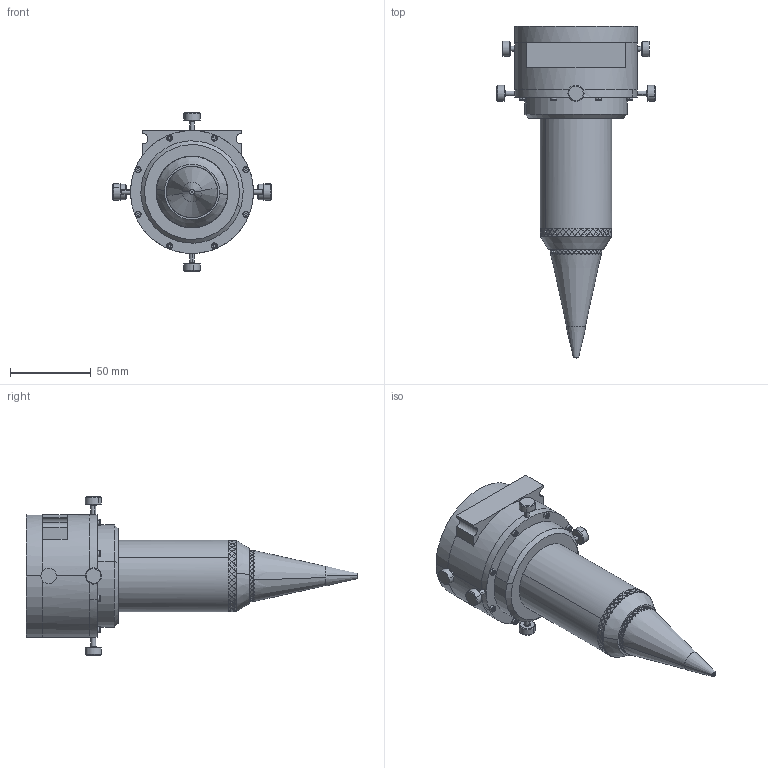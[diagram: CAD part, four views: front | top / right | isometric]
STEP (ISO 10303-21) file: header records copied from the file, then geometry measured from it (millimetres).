
FILE_DESCRIPTION (( 'STEP AP214' ), '1' );
FILE_NAME ('G3-50-51-191.STEP', '2017-03-28T14:02:03', ( '' ), ( '' ), 'SwSTEP 2.0', 'SolidWorks 2017', '' );
FILE_SCHEMA (( 'AUTOMOTIVE_DESIGN' ));
Length unit declared in the file: inch
Products named in the file (1): G3-50-51-191
Bounding box: 98.26 x 205.8 x 98.26 mm (x, y, z)
Volume: 371402.1 mm3; surface area: 55461.4 mm2
Topology: 1 solids, 1 shells, 1794 faces, 4965 edges, 3205 vertices
Faces by surface type: plane 1264, cylinder 429, cone 65, torus 34, bspline 2
Entity records: 56966 total; most frequent: CARTESIAN_POINT 14653, ORIENTED_EDGE 9930, DIRECTION 7813, EDGE_CURVE 4965, VERTEX_POINT 3205, VECTOR 2877, LINE 2877, AXIS2_PLACEMENT_3D 2468
